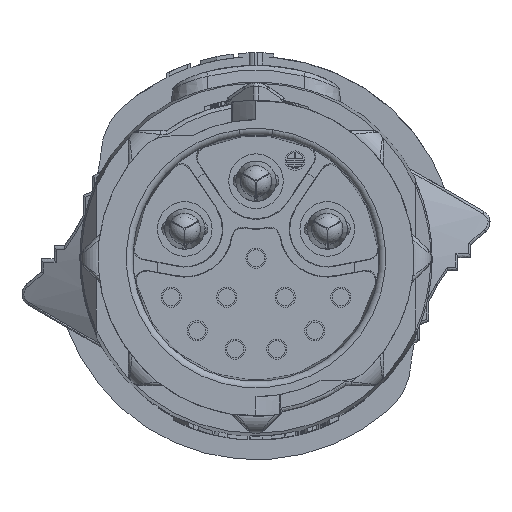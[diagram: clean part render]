
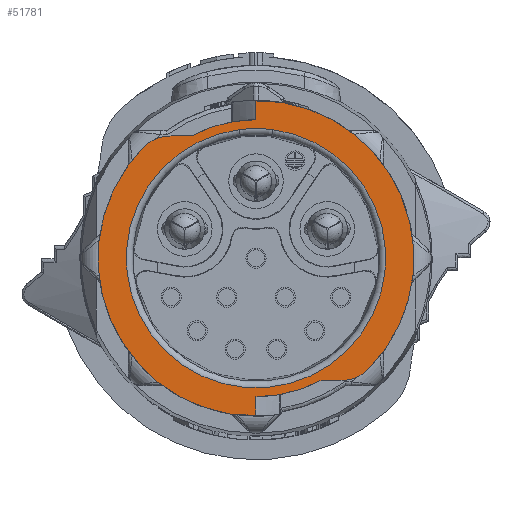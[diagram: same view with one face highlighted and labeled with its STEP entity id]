
A CAD part, left-side view. The second image highlights one B-rep face of the part: STEP entity #51781.
In plain terms, the highlighted planar face has unit normal (-1, 0, 0).
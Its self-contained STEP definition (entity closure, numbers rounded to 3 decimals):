
#74=CARTESIAN_POINT('',(0.,0.,0.));
#75=DIRECTION('',(-1.,0.,0.));
#76=DIRECTION('',(0.,0.,1.));
#77=AXIS2_PLACEMENT_3D('',#74,#75,#76);
#171=CARTESIAN_POINT('',(0.,0.,0.));
#172=DIRECTION('',(-1.,0.,0.));
#173=DIRECTION('',(0.,-0.714,-0.7));
#174=AXIS2_PLACEMENT_3D('',#171,#172,#173);
#217=CARTESIAN_POINT('',(0.,-6.536,-6.403));
#218=DIRECTION('',(-1.,0.,0.));
#219=DIRECTION('',(0.,0.,-1.));
#220=AXIS2_PLACEMENT_3D('',#217,#218,#219);
#222=DIRECTION('',(0.,-1.,0.));
#223=VECTOR('',#222,1.536);
#224=CARTESIAN_POINT('',(0.,-5.,-9.403));
#225=LINE('',#224,#223);
#226=DIRECTION('',(0.,0.,-1.));
#227=VECTOR('',#226,1.5);
#228=CARTESIAN_POINT('',(0.,0.,-10.65));
#229=LINE('',#228,#227);
#230=CARTESIAN_POINT('',(0.,6.536,6.403));
#231=DIRECTION('',(-1.,0.,0.));
#232=DIRECTION('',(0.,0.,1.));
#233=AXIS2_PLACEMENT_3D('',#230,#231,#232);
#235=DIRECTION('',(0.,1.,0.));
#236=VECTOR('',#235,1.536);
#237=CARTESIAN_POINT('',(0.,5.,9.403));
#238=LINE('',#237,#236);
#239=DIRECTION('',(0.,0.,1.));
#240=VECTOR('',#239,1.5);
#241=CARTESIAN_POINT('',(0.,0.,10.65));
#242=LINE('',#241,#240);
#243=CARTESIAN_POINT('',(0.,0.,0.));
#244=DIRECTION('',(-1.,0.,0.));
#245=DIRECTION('',(0.,-0.128,0.992));
#246=AXIS2_PLACEMENT_3D('',#243,#244,#245);
#248=CARTESIAN_POINT('',(0.,0.,0.));
#249=DIRECTION('',(-1.,0.,0.));
#250=DIRECTION('',(0.,0.128,0.992));
#251=AXIS2_PLACEMENT_3D('',#248,#249,#250);
#303=CARTESIAN_POINT('',(0.,0.,0.));
#304=DIRECTION('',(1.,0.,0.));
#305=DIRECTION('',(0.,-0.469,-0.883));
#306=AXIS2_PLACEMENT_3D('',#303,#304,#305);
#408=CARTESIAN_POINT('',(0.,0.,0.));
#409=DIRECTION('',(-1.,0.,0.));
#410=DIRECTION('',(0.,0.714,0.7));
#411=AXIS2_PLACEMENT_3D('',#408,#409,#410);
#46693=CARTESIAN_POINT('',(0.,0.,10.65));
#46694=CARTESIAN_POINT('',(0.,0.,12.15));
#46695=VERTEX_POINT('',#46693);
#46696=VERTEX_POINT('',#46694);
#46697=CARTESIAN_POINT('',(0.,0.,-10.65));
#46698=CARTESIAN_POINT('',(0.,0.,-12.15));
#46699=VERTEX_POINT('',#46697);
#46700=VERTEX_POINT('',#46698);
#46701=CARTESIAN_POINT('',(0.,6.536,9.403));
#46702=CARTESIAN_POINT('',(0.,8.679,8.503));
#46703=VERTEX_POINT('',#46701);
#46704=VERTEX_POINT('',#46702);
#46713=CARTESIAN_POINT('',(0.,5.,9.403));
#46714=VERTEX_POINT('',#46713);
#46725=CARTESIAN_POINT('',(0.,-6.536,-9.403));
#46726=CARTESIAN_POINT('',(0.,-8.679,-8.503));
#46727=VERTEX_POINT('',#46725);
#46728=VERTEX_POINT('',#46726);
#46735=CARTESIAN_POINT('',(0.,-5.,-9.403));
#46736=VERTEX_POINT('',#46735);
#47307=CARTESIAN_POINT('',(0.,-1.273,9.893));
#47308=CARTESIAN_POINT('',(0.,1.273,9.893));
#47309=VERTEX_POINT('',#47307);
#47310=VERTEX_POINT('',#47308);
#51751=CARTESIAN_POINT('',(0.,0.,0.));
#51752=DIRECTION('',(1.,0.,0.));
#51753=DIRECTION('',(0.,-1.,0.));
#51754=AXIS2_PLACEMENT_3D('',#51751,#51752,#51753);
#51755=PLANE('',#51754);
#51756=ORIENTED_EDGE('',*,*,#51686,.F.);
#51758=ORIENTED_EDGE('',*,*,#51757,.F.);
#51760=ORIENTED_EDGE('',*,*,#51759,.F.);
#51762=ORIENTED_EDGE('',*,*,#51761,.T.);
#51764=ORIENTED_EDGE('',*,*,#51763,.T.);
#51766=ORIENTED_EDGE('',*,*,#51765,.F.);
#51768=ORIENTED_EDGE('',*,*,#51767,.F.);
#51770=ORIENTED_EDGE('',*,*,#51769,.F.);
#51771=ORIENTED_EDGE('',*,*,#51608,.F.);
#51772=ORIENTED_EDGE('',*,*,#51745,.T.);
#51773=EDGE_LOOP('',(#51756,#51758,#51760,#51762,#51764,#51766,#51768,#51770,
#51771,#51772));
#51774=FACE_OUTER_BOUND('',#51773,.F.);
#51776=ORIENTED_EDGE('',*,*,#51775,.T.);
#51778=ORIENTED_EDGE('',*,*,#51777,.T.);
#51779=EDGE_LOOP('',(#51776,#51778));
#51780=FACE_BOUND('',#51779,.F.);
#51781=ADVANCED_FACE('',(#51774,#51780),#51755,.F.);
#78=CIRCLE('',#77,10.65);
#175=CIRCLE('',#174,12.15);
#221=CIRCLE('',#220,3.);
#234=CIRCLE('',#233,3.);
#247=CIRCLE('',#246,9.974);
#252=CIRCLE('',#251,9.974);
#307=CIRCLE('',#306,10.65);
#412=CIRCLE('',#411,12.15);
#51608=EDGE_CURVE('',#46695,#46714,#78,.T.);
#51686=EDGE_CURVE('',#46728,#46696,#175,.T.);
#51745=EDGE_CURVE('',#46695,#46696,#242,.T.);
#51757=EDGE_CURVE('',#46727,#46728,#221,.T.);
#51759=EDGE_CURVE('',#46736,#46727,#225,.T.);
#51761=EDGE_CURVE('',#46736,#46699,#307,.T.);
#51763=EDGE_CURVE('',#46699,#46700,#229,.T.);
#51765=EDGE_CURVE('',#46704,#46700,#412,.T.);
#51767=EDGE_CURVE('',#46703,#46704,#234,.T.);
#51769=EDGE_CURVE('',#46714,#46703,#238,.T.);
#51775=EDGE_CURVE('',#47309,#47310,#247,.T.);
#51777=EDGE_CURVE('',#47310,#47309,#252,.T.);
